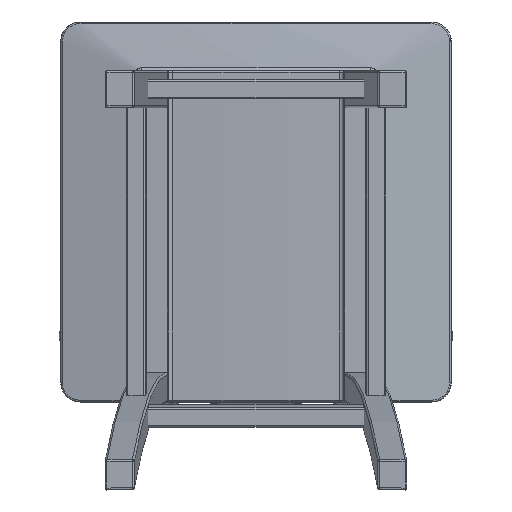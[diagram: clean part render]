
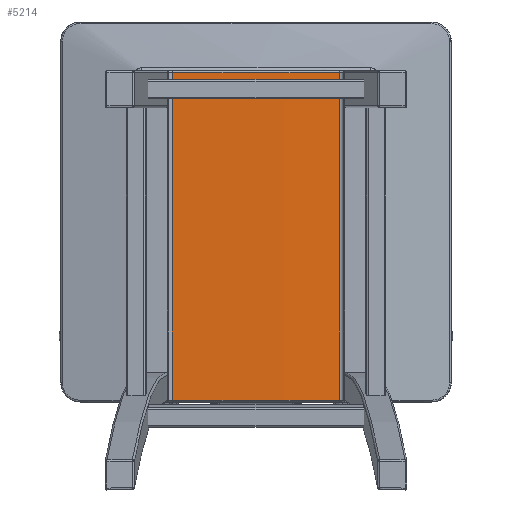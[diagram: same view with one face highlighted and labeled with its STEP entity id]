
A CAD part, front view. The second image highlights one B-rep face of the part: STEP entity #5214.
In plain terms, the highlighted cylindrical face has radius 2027 mm (diameter 4054 mm), a partial arc.
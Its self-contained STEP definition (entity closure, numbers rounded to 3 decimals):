
#413 = CARTESIAN_POINT ( 'NONE',  ( 0., 2695., 1240.755 ) ) ;
#764 = DIRECTION ( 'NONE',  ( 0., 0., -1. ) ) ;
#783 = EDGE_CURVE ( 'NONE', #15728, #9194, #5748, .T. ) ;
#1574 = VECTOR ( 'NONE', #764, 1000. ) ;
#1676 = ORIENTED_EDGE ( 'NONE', *, *, #783, .F. ) ;
#3069 = CIRCLE ( 'NONE', #12924, 2027. ) ;
#3609 = VECTOR ( 'NONE', #4508, 1000. ) ;
#4493 = DIRECTION ( 'NONE',  ( 0., 0., -1. ) ) ;
#4508 = DIRECTION ( 'NONE',  ( 0., 0., -1. ) ) ;
#4768 = EDGE_LOOP ( 'NONE', ( #4870, #11925, #1676, #14485 ) ) ;
#4870 = ORIENTED_EDGE ( 'NONE', *, *, #14242, .T. ) ;
#5214 = ADVANCED_FACE ( 'NONE', ( #8351 ), #16920, .T. ) ;
#5748 = LINE ( 'NONE', #16597, #3609 ) ;
#6804 = EDGE_CURVE ( 'NONE', #15728, #16157, #3069, .T. ) ;
#6803 = DIRECTION ( 'NONE',  ( 0., 0., -1. ) ) ;
#6914 = CARTESIAN_POINT ( 'NONE',  ( -85.939, 669.823, 93. ) ) ;
#7540 = DIRECTION ( 'NONE',  ( -1., 0., 0. ) ) ;
#8351 = FACE_OUTER_BOUND ( 'NONE', #4768, .T. ) ;
#8520 = CARTESIAN_POINT ( 'NONE',  ( -85.939, 669.823, 1240.755 ) ) ;
#9076 = CARTESIAN_POINT ( 'NONE',  ( -85.939, 669.823, 429. ) ) ;
#9194 = VERTEX_POINT ( 'NONE', #10497 ) ;
#9349 = CARTESIAN_POINT ( 'NONE',  ( 0., 2695., 429. ) ) ;
#9502 = CARTESIAN_POINT ( 'NONE',  ( 0., 2695., 93. ) ) ;
#9652 = AXIS2_PLACEMENT_3D ( 'NONE', #9502, #13599, #12441 ) ;
#10497 = CARTESIAN_POINT ( 'NONE',  ( 85.939, 669.823, 93. ) ) ;
#10723 = EDGE_CURVE ( 'NONE', #14032, #9194, #12793, .T. ) ;
#11925 = ORIENTED_EDGE ( 'NONE', *, *, #10723, .T. ) ;
#12441 = DIRECTION ( 'NONE',  ( -1., 0., 0. ) ) ;
#12793 = CIRCLE ( 'NONE', #9652, 2027. ) ;
#12924 = AXIS2_PLACEMENT_3D ( 'NONE', #9349, #6803, #14751 ) ;
#13599 = DIRECTION ( 'NONE',  ( 0., 0., 1. ) ) ;
#14032 = VERTEX_POINT ( 'NONE', #6914 ) ;
#14242 = EDGE_CURVE ( 'NONE', #16157, #14032, #16758, .T. ) ;
#14485 = ORIENTED_EDGE ( 'NONE', *, *, #6804, .T. ) ;
#14689 = AXIS2_PLACEMENT_3D ( 'NONE', #413, #4493, #7540 ) ;
#14751 = DIRECTION ( 'NONE',  ( 1., 0., 0. ) ) ;
#15728 = VERTEX_POINT ( 'NONE', #16986 ) ;
#16157 = VERTEX_POINT ( 'NONE', #9076 ) ;
#16597 = CARTESIAN_POINT ( 'NONE',  ( 85.939, 669.823, 1240.755 ) ) ;
#16758 = LINE ( 'NONE', #8520, #1574 ) ;
#16920 = CYLINDRICAL_SURFACE ( 'NONE', #14689, 2027. ) ;
#16986 = CARTESIAN_POINT ( 'NONE',  ( 85.939, 669.823, 429. ) ) ;
